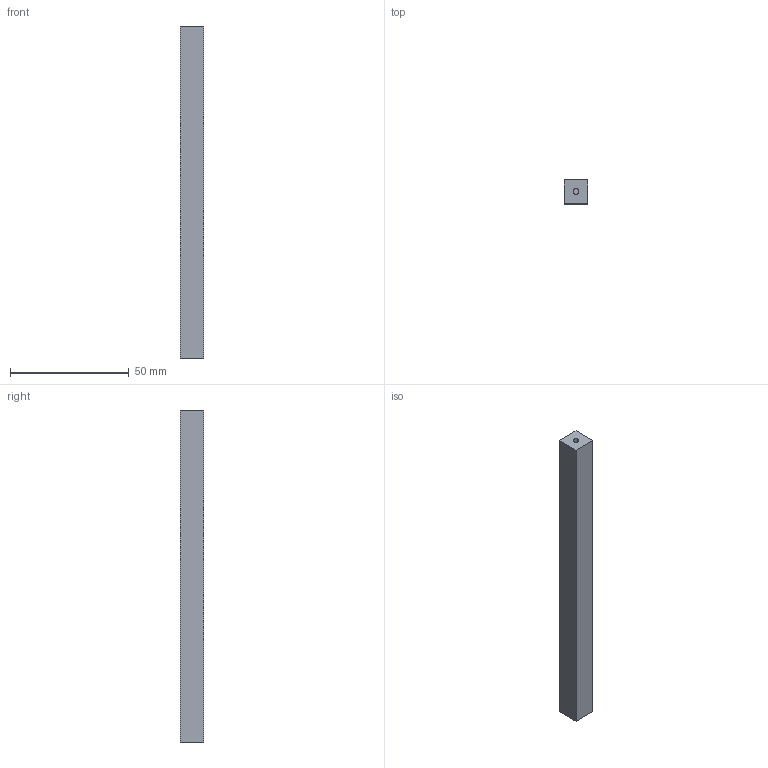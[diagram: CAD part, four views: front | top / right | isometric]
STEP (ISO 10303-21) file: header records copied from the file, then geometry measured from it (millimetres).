
FILE_DESCRIPTION(('Open CASCADE Model'),'2;1');
FILE_NAME('Open CASCADE Shape Model','2026-10-18T23:46:25',('Author'),( 'Open CASCADE'),'Open CASCADE STEP processor 7.9','Open CASCADE 7.9' ,'Unknown');
FILE_SCHEMA(('AUTOMOTIVE_DESIGN { 1 0 10303 214 1 1 1 1 }'));
Length unit declared in the file: millimetre
Products named in the file (1): Open CASCADE STEP translator 7.9 7
Bounding box: 10 x 10 x 140 mm (x, y, z)
Volume: 13744.7 mm3; surface area: 6208.4 mm2
Topology: 1 solids, 1 shells, 18 faces, 30 edges, 20 vertices
Faces by surface type: plane 12, cylinder 6
Full cylindrical faces by diameter (mm): 2.5 x6
Entity records: 838 total; most frequent: CARTESIAN_POINT 153, DIRECTION 136, LINE 66, VECTOR 66, ORIENTED_EDGE 60, PCURVE 60, DEFINITIONAL_REPRESENTATION 60, AXIS2_PLACEMENT_3D 31
